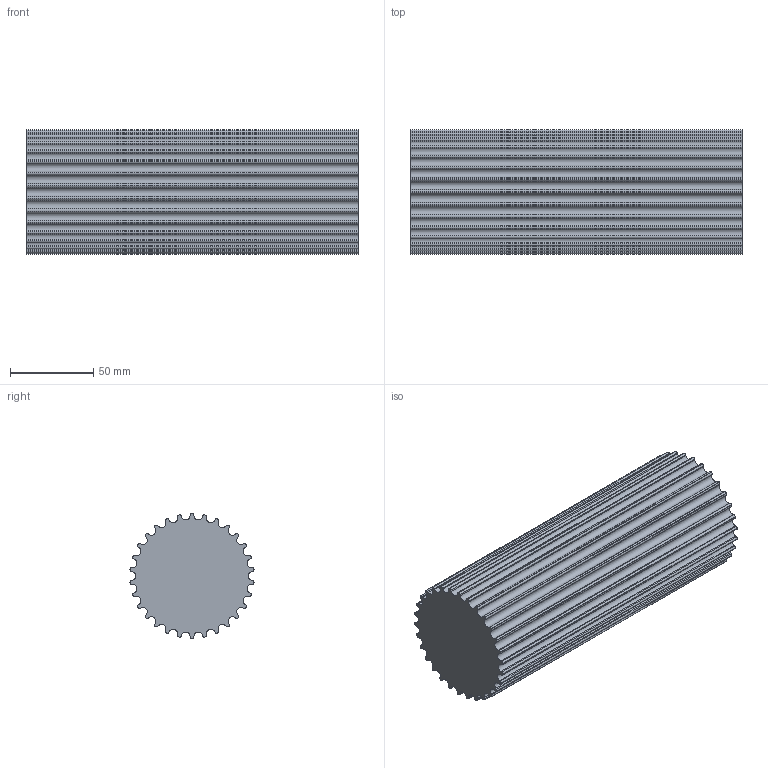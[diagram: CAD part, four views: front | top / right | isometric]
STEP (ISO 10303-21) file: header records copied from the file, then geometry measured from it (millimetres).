
FILE_DESCRIPTION( ( 'STEP AP203' ), '1' );
FILE_NAME( 'C:/Users/Stangenbergd/Desktop/17493001.stp', '2020-08-15T09:47:57', ( 'License CC BY-ND 4.0' ), ( 'CADENAS' ), ' ', 'PARTsolutions', ' ' );
FILE_SCHEMA( ( 'CONFIG_CONTROL_DESIGN' ) );
Length unit declared in the file: millimetre
Products named in the file (1): _17493001
Bounding box: 200 x 74.74 x 75.12 mm (x, y, z)
Volume: 787511.6 mm3; surface area: 76748.2 mm2
Topology: 1 solids, 1 shells, 182 faces, 540 edges, 360 vertices
Faces by surface type: cylinder 120, plane 62
Entity records: 6248 total; most frequent: DIRECTION 1146, CARTESIAN_POINT 1083, ORIENTED_EDGE 1080, EDGE_CURVE 540, AXIS2_PLACEMENT_3D 423, VERTEX_POINT 360, LINE 300, VECTOR 300
